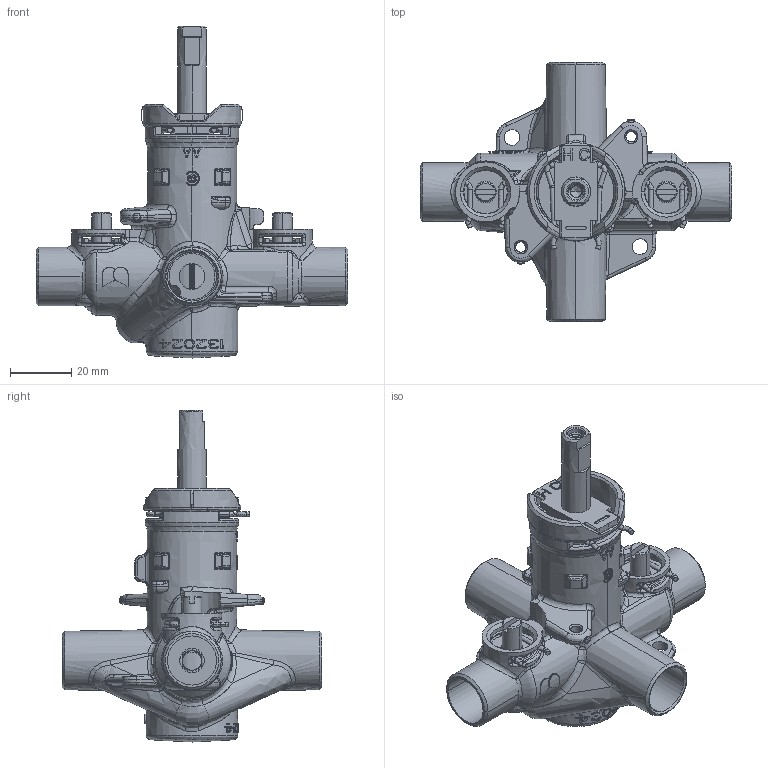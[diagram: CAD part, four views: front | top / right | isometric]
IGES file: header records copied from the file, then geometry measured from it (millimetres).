
Start section:  PTC IGES file: sku_s932.igs
Global section: file name: sku_s932.igs; native system: Pro/ENGINEER by Parametric Technology Corporation; preprocessor: 2006460; author: 9dutterb; organization: Unknown; date: 20071101.100836; units: inch
Bounding box: 101.6 x 84.58 x 108.14 mm (x, y, z)
Surface area: 43393.5 mm2 (no closed solid volume)
Topology: 0 solids, 0 shells, 1579 faces, 9591 edges, 9581 vertices
Faces by surface type: bspline 874, revolution 695, extrusion 10
